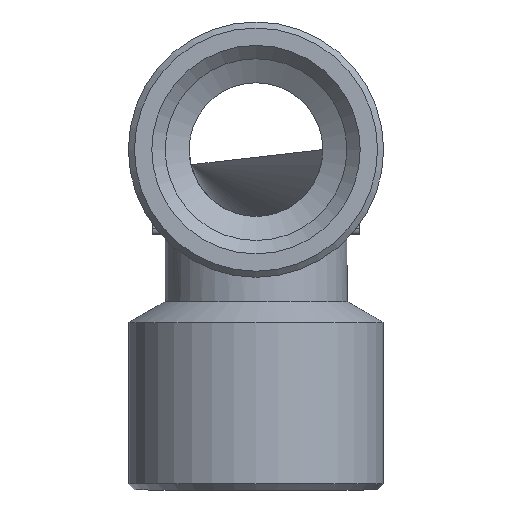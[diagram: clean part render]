
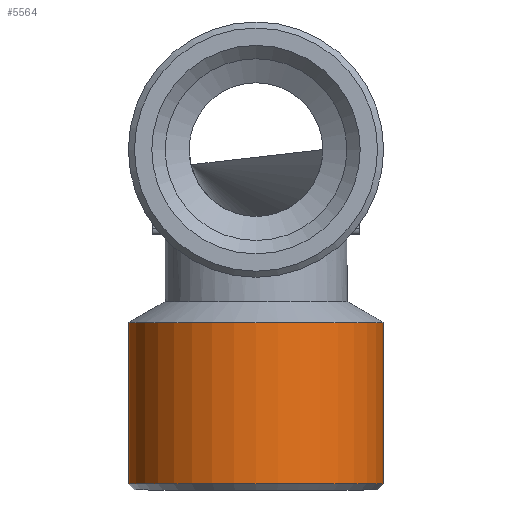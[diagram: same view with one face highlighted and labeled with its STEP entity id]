
A CAD part, left-side view. The second image highlights one B-rep face of the part: STEP entity #5564.
In plain terms, the highlighted cylindrical face has radius 10.5 mm (diameter 21 mm), a full revolution.
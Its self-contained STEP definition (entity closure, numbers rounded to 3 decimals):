
#1446=CYLINDRICAL_SURFACE('',#5435,10.5);
#1488=ORIENTED_EDGE('',*,*,#1882,.F.);
#1489=ORIENTED_EDGE('',*,*,#1883,.T.);
#1742=CIRCLE('',#5434,10.5);
#1743=CIRCLE('',#5436,10.5);
#1788=VERTEX_POINT('',#2466);
#1789=VERTEX_POINT('',#2469);
#1882=EDGE_CURVE('',#1788,#1788,#1742,.T.);
#1883=EDGE_CURVE('',#1789,#1789,#1743,.T.);
#2012=EDGE_LOOP('',(#1488));
#2013=EDGE_LOOP('',(#1489));
#2098=FACE_BOUND('',#2012,.T.);
#2099=FACE_BOUND('',#2013,.T.);
#2188=DIRECTION('',(0.,-1.,0.));
#2189=DIRECTION('',(0.,0.,10.5));
#2190=DIRECTION('',(0.,1.,0.));
#2191=DIRECTION('',(1.,0.,0.));
#2192=DIRECTION('',(0.,-1.,0.));
#2193=DIRECTION('',(0.,0.,10.5));
#2466=CARTESIAN_POINT('',(71.738,15.663,10.5));
#2467=CARTESIAN_POINT('',(71.738,15.663,0.));
#2468=CARTESIAN_POINT('',(71.738,15.663,0.));
#2469=CARTESIAN_POINT('',(71.738,28.931,10.5));
#2470=CARTESIAN_POINT('',(71.738,28.931,0.));
#5434=AXIS2_PLACEMENT_3D('',#2467,#2188,#2189);
#5435=AXIS2_PLACEMENT_3D('',#2468,#2190,#2191);
#5436=AXIS2_PLACEMENT_3D('',#2470,#2192,#2193);
#5564=ADVANCED_FACE('',(#2098,#2099),#1446,.T.);
